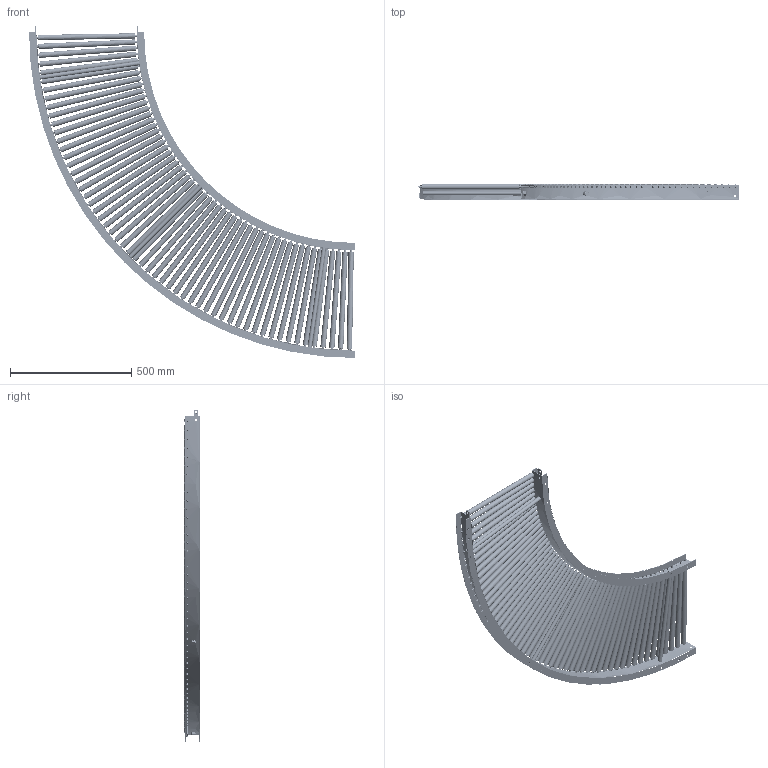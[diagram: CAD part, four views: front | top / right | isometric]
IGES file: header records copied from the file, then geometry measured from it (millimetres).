
Start section: SolidWorks IGES file using analytic representation for surfaces
Global section: file name: C:\Users\0656\Desktop\変換ツール\iges変換\R-2212P_C.igs; native system: SolidWorks 2023; preprocessor: SolidWorks 2023; author: 0656; date: 240315.111715; units: millimetre
Bounding box: 1345 x 63.1 x 1370.08 mm (x, y, z)
Surface area: 3801467.9 mm2 (no closed solid volume)
Topology: 0 solids, 0 shells, 1980 faces, 38484 edges, 38484 vertices
Faces by surface type: revolution 1032, bspline 948
